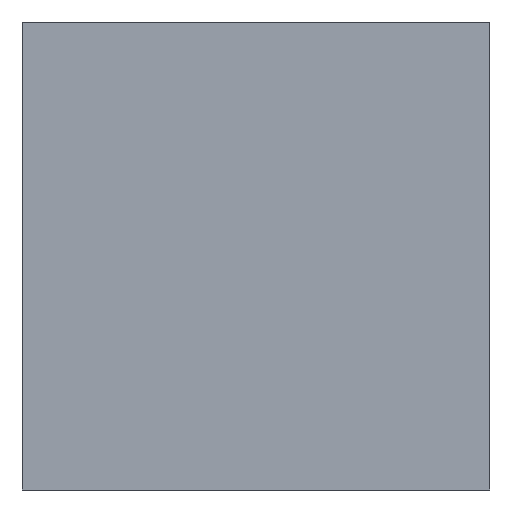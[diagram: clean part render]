
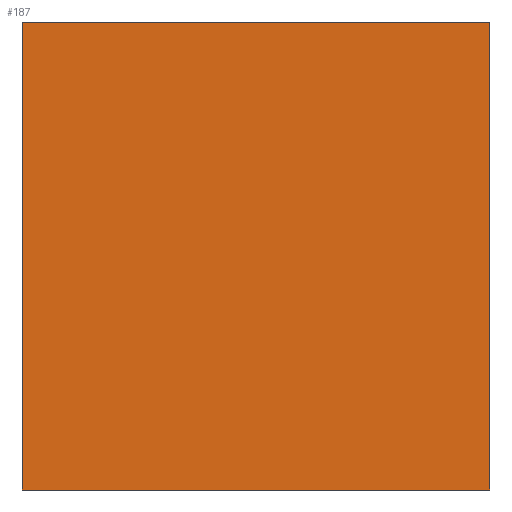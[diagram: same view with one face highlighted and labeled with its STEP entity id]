
A CAD part, left-side view. The second image highlights one B-rep face of the part: STEP entity #187.
In plain terms, the highlighted planar face has unit normal (-1, 0, 0) as drawn and (0, 1, 0) by its records, which use the part's own axes.
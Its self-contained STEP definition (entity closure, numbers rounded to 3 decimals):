
#187=ADVANCED_FACE($,(#272),#1191,.T.);
#272=FACE_OUTER_BOUND($,#357,.T.);
#357=EDGE_LOOP($,(#479,#480,#481,#482));
#479=ORIENTED_EDGE($,*,*,#861,.F.);
#480=ORIENTED_EDGE($,*,*,#878,.T.);
#481=ORIENTED_EDGE($,*,*,#872,.F.);
#482=ORIENTED_EDGE($,*,*,#876,.F.);
#861=EDGE_CURVE($,#1063,#1064,#1238,.T.);
#872=EDGE_CURVE($,#1072,#1073,#1249,.T.);
#876=EDGE_CURVE($,#1064,#1072,#1253,.T.);
#878=EDGE_CURVE($,#1063,#1073,#1255,.T.);
#1063=VERTEX_POINT($,#1697);
#1064=VERTEX_POINT($,#1698);
#1072=VERTEX_POINT($,#1706);
#1073=VERTEX_POINT($,#1707);
#1191=PLANE($,#1522);
#1238=B_SPLINE_CURVE_WITH_KNOTS($,1,(#1640,#1641),.UNSPECIFIED.,.F.,.F.,
(2,2),(0.,60.),.UNSPECIFIED.);
#1249=B_SPLINE_CURVE_WITH_KNOTS($,1,(#1662,#1663),.UNSPECIFIED.,.F.,.F.,
(2,2),(-60.,0.),.UNSPECIFIED.);
#1253=B_SPLINE_CURVE_WITH_KNOTS($,1,(#1670,#1671),.UNSPECIFIED.,.F.,.F.,
(2,2),(-60.,0.),.UNSPECIFIED.);
#1255=B_SPLINE_CURVE_WITH_KNOTS($,1,(#1674,#1675),.UNSPECIFIED.,.F.,.F.,
(2,2),(-60.,0.),.UNSPECIFIED.);
#1522=AXIS2_PLACEMENT_3D($,#1690,#1581,$);
#1581=DIRECTION($,(0.,1.,0.));
#1640=CARTESIAN_POINT($,(-30.,30.,60.));
#1641=CARTESIAN_POINT($,(-30.,30.,0.));
#1662=CARTESIAN_POINT($,(30.,30.,0.));
#1663=CARTESIAN_POINT($,(30.,30.,60.));
#1670=CARTESIAN_POINT($,(-30.,30.,0.));
#1671=CARTESIAN_POINT($,(30.,30.,0.));
#1674=CARTESIAN_POINT($,(-30.,30.,60.));
#1675=CARTESIAN_POINT($,(30.,30.,60.));
#1690=CARTESIAN_POINT($,(-30.,30.,0.));
#1697=CARTESIAN_POINT($,(-30.,30.,60.));
#1698=CARTESIAN_POINT($,(-30.,30.,0.));
#1706=CARTESIAN_POINT($,(30.,30.,0.));
#1707=CARTESIAN_POINT($,(30.,30.,60.));
